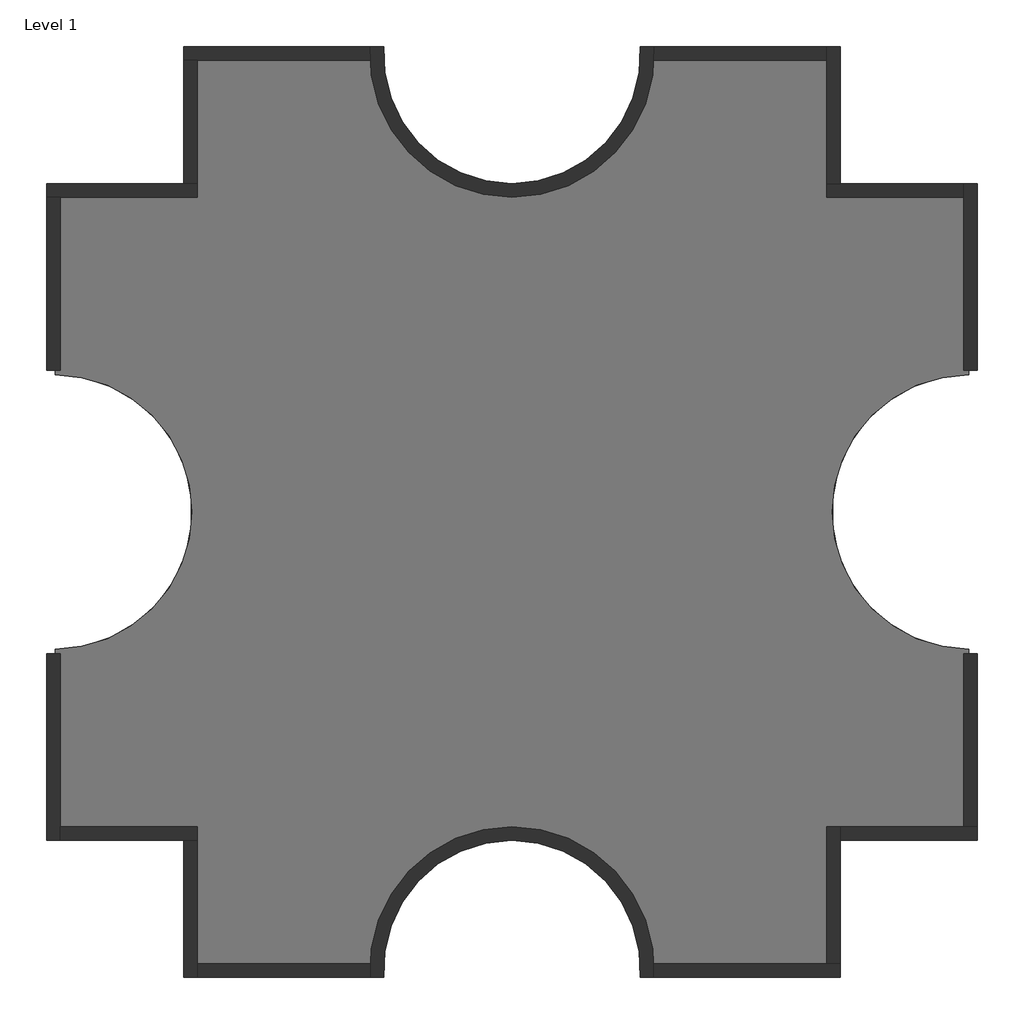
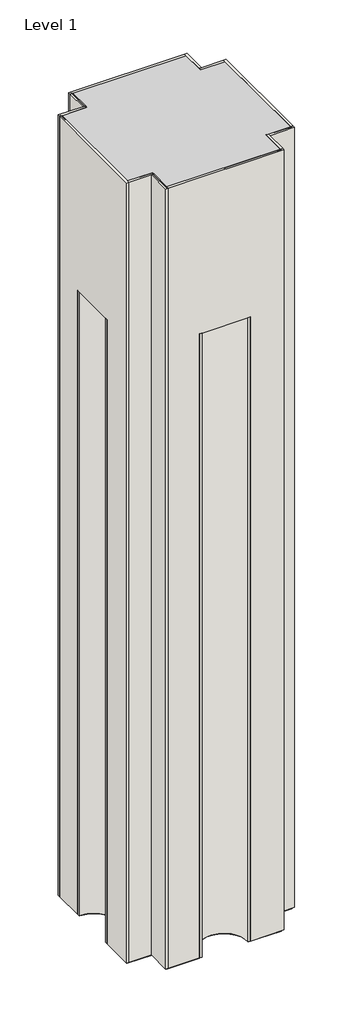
# One storey: 16 walls, 1 proxy, 1 slab.
"""IFC4 building model written with IfcOpenShell, lengths in millimetres."""

from ifc_helpers import new_model, si_unit, point, frame, frame_2d, origin, origin_with_axes, place, context, project, spatial, polyline, circle_curve, trimmed, segment, composite_curve, outline, extrude, faceted_brep, element, save
from ifc_brep_helpers import plane_surface, cylinder_surface, revolved_surface, advanced_brep

model = new_model("IFC4")

# Units and contexts
model_context = context("Model", 3, world=origin())
ifc_project = project(units=[si_unit("LENGTHUNIT", "METRE", prefix="MILLI")], contexts=[model_context])

# Site, building, storey
site = spatial("IfcSite", under=ifc_project)
building = spatial("IfcBuilding", under=site)
storey = spatial("IfcBuildingStorey", under=building, Name="Level 1", Elevation=0.0)

# Proxy
placement = place(None, origin())
element("IfcBuildingElementProxy", 1, Name="Mass 1 : Mass 1", ObjectType="Mass 1 : Mass 1", at=placement, inside=storey, context=model_context, shape_type="AdvancedBrep", body=[
    advanced_brep(
    [(-7150.3629456, 4479.6634547, 152400.0), (-11722.3629456, 4479.6634547, 152400.0), (-11722.3629456, -16856.3365453, 152400.0), (-7150.3629456, -16856.3365453, 152400.0), (-7150.3629456, -21428.3365453, 152400.0), (14185.6370544, -21428.3365453, 152400.0), (14185.6370544, -16856.3365453, 152400.0), (18757.6370544, -16856.3365453, 152400.0), (18757.6370544, 4479.6634547, 152400.0), (14185.6370544, 4479.6634547, 152400.0), (14185.6370544, 9051.6634547, 152400.0), (-7150.3629456, 9051.6634547, 152400.0), (-7150.3629456, 4479.6634547, 0.0), (-7150.3629456, 9051.6634547, 0.0), (-1054.3629456, 9051.6634547, 0.0), (8089.6370544, 9051.6634547, 0.0), (14185.6370544, 9051.6634547, 0.0), (14185.6370544, 4479.6634547, 0.0), (18757.6370544, 4479.6634547, 0.0), (18757.6370544, -1616.3365453, 0.0), (18757.6370544, -10760.3365453, 0.0), (18757.6370544, -16856.3365453, 0.0), (14185.6370544, -16856.3365453, 0.0), (14185.6370544, -21428.3365453, 0.0), (8089.6370544, -21428.3365453, 0.0), (-1054.3629456, -21428.3365453, 0.0), (-7150.3629456, -21428.3365453, 0.0), (-7150.3629456, -16856.3365453, 0.0), (-11722.3629456, -16856.3365453, 0.0), (-11722.3629456, -10760.3365453, 0.0), (-11722.3629456, -1616.3365453, 0.0), (-11722.3629456, 4479.6634547, 0.0), (-11722.3629456, -1616.3365453, 121920.0), (-11722.3629456, -10760.3365453, 121920.0), (-1054.3629456, -21428.3365453, 121920.0), (8089.6370544, -21428.3365453, 121920.0), (18757.6370544, -10760.3365453, 121920.0), (18757.6370544, -1616.3365453, 121920.0), (8089.6370544, 9051.6634547, 121920.0), (-1054.3629456, 9051.6634547, 121920.0)],
    [
        (0, 1),
        (1, 2),
        (2, 3),
        (3, 4),
        (4, 5),
        (5, 6),
        (6, 7),
        (7, 8),
        (8, 9),
        (9, 10),
        (10, 11),
        (11, 0),
        (12, 13),
        (13, 14),
        (14, 15, circle_curve(frame((3517.6370544, 9051.6634547, 0.0), z_axis=(0.0, 0.0, 1.0), x_axis=(0.0, 1.0, 0.0)), 4572.0)),
        (15, 16),
        (16, 17),
        (17, 18),
        (18, 19),
        (19, 20, circle_curve(frame((18757.6370544, -6188.3365453, 0.0), z_axis=(0.0, 0.0, 1.0), x_axis=(1.0, 0.0, 0.0)), 4572.0)),
        (20, 21),
        (21, 22),
        (22, 23),
        (23, 24),
        (24, 25, circle_curve(frame((3517.6370544, -21428.3365453, 0.0), z_axis=(0.0, 0.0, 1.0), x_axis=(0.0, -1.0, 0.0)), 4572.0)),
        (25, 26),
        (26, 27),
        (27, 28),
        (28, 29),
        (29, 30, circle_curve(frame((-11722.3629456, -6188.3365453, 0.0), z_axis=(0.0, 0.0, 1.0), x_axis=(-1.0, 0.0, 0.0)), 4572.0)),
        (30, 31),
        (31, 12),
        (0, 12),
        (31, 1),
        (30, 32),
        (32, 33),
        (33, 29),
        (28, 2),
        (27, 3),
        (26, 4),
        (25, 34),
        (34, 35),
        (35, 24),
        (23, 5),
        (22, 6),
        (21, 7),
        (20, 36),
        (36, 37),
        (37, 19),
        (18, 8),
        (17, 9),
        (16, 10),
        (15, 38),
        (38, 39),
        (39, 14),
        (13, 11),
        (36, 37, circle_curve(frame((18757.6370544, -6188.3365453, 121920.0), z_axis=(0.0, 0.0, -1.0), x_axis=(1.0, 0.0, 0.0)), 4572.0)),
        (34, 35, circle_curve(frame((3517.6370544, -21428.3365453, 121920.0), z_axis=(0.0, 0.0, -1.0), x_axis=(0.0, -1.0, 0.0)), 4572.0)),
        (38, 39, circle_curve(frame((3517.6370544, 9051.6634547, 121920.0), z_axis=(0.0, 0.0, -1.0), x_axis=(0.0, 1.0, 0.0)), 4572.0)),
        (32, 33, circle_curve(frame((-11722.3629456, -6188.3365453, 121920.0), z_axis=(0.0, 0.0, -1.0), x_axis=(-1.0, 0.0, 0.0)), 4572.0)),
    ],
    [
        plane_surface(frame((-11722.3629456, 4479.6634547, 152400.0), z_axis=(0.0, 0.0, 1.0), x_axis=(-1.0, 0.0, 0.0))),
        plane_surface(frame((-11722.3629456, 4479.6634547, 0.0), z_axis=(0.0, 0.0, -1.0), x_axis=(1.0, 0.0, 0.0))),
        plane_surface(frame((-7150.3629456, 4479.6634547, 152400.0), z_axis=(0.0, 1.0, 0.0), x_axis=(0.0, 0.0, -1.0))),
        plane_surface(frame((-11722.3629456, 4479.6634547, 152400.0), z_axis=(-1.0, 0.0, 0.0), x_axis=(0.0, 0.0, -1.0))),
        plane_surface(frame((-11722.3629456, -16856.3365453, 152400.0), z_axis=(0.0, -1.0, 0.0), x_axis=(0.0, 0.0, -1.0))),
        plane_surface(frame((-7150.3629456, -16856.3365453, 152400.0), z_axis=(-1.0, 0.0, 0.0), x_axis=(0.0, 0.0, -1.0))),
        plane_surface(frame((-7150.3629456, -21428.3365453, 152400.0), z_axis=(0.0, -1.0, 0.0), x_axis=(0.0, 0.0, -1.0))),
        plane_surface(frame((14185.6370544, -21428.3365453, 152400.0), z_axis=(1.0, 0.0, 0.0), x_axis=(0.0, 0.0, -1.0))),
        plane_surface(frame((14185.6370544, -16856.3365453, 152400.0), z_axis=(0.0, -1.0, 0.0), x_axis=(0.0, 0.0, -1.0))),
        plane_surface(frame((18757.6370544, -16856.3365453, 152400.0), z_axis=(1.0, 0.0, 0.0), x_axis=(0.0, 0.0, -1.0))),
        plane_surface(frame((18757.6370544, 4479.6634547, 152400.0), z_axis=(0.0, 1.0, 0.0), x_axis=(0.0, 0.0, -1.0))),
        plane_surface(frame((14185.6370544, 4479.6634547, 152400.0), z_axis=(1.0, 0.0, 0.0), x_axis=(0.0, 0.0, -1.0))),
        plane_surface(frame((14185.6370544, 9051.6634547, 152400.0), z_axis=(0.0, 1.0, 0.0), x_axis=(0.0, 0.0, -1.0))),
        plane_surface(frame((-7150.3629456, 9051.6634547, 152400.0), z_axis=(-1.0, 0.0, 0.0), x_axis=(0.0, 0.0, -1.0))),
        plane_surface(frame((18757.6370544, -10760.3365453, 121920.0), z_axis=(0.0, 0.0, -1.0), x_axis=(0.0, 1.0, 0.0))),
        revolved_surface(polyline([(23329.6370544, -6188.3365453, 121920.0), (23329.6370544, -6188.3365453, 0.0)]), (18757.6370544, -6188.3365453, 0.0), (0.0, 0.0, 1.0)),
        revolved_surface(polyline([(3517.6370544, -26000.3365453, 121920.0), (3517.6370544, -26000.3365453, 0.0)]), (3517.6370544, -21428.3365453, 0.0), (0.0, 0.0, 1.0)),
        revolved_surface(polyline([(3517.6370544, 13623.6634547, 121920.0), (3517.6370544, 13623.6634547, 0.0)]), (3517.6370544, 9051.6634547, 0.0), (0.0, 0.0, 1.0)),
        revolved_surface(polyline([(-16294.3629456, -6188.3365453, 121920.0), (-16294.3629456, -6188.3365453, 0.0)]), (-11722.3629456, -6188.3365453, 0.0), (0.0, 0.0, 1.0)),
    ],
    [
        (0, [[1, 2, 3, 4, 5, 6, 7, 8, 9, 10, 11, 12]]),
        (1, [[13, 14, 15, 16, 17, 18, 19, 20, 21, 22, 23, 24, 25, 26, 27, 28, 29, 30, 31, 32]]),
        (2, [[-1, 33, -32, 34]]),
        (3, [[-2, -34, -31, 35, 36, 37, -29, 38]]),
        (4, [[-3, -38, -28, 39]]),
        (5, [[-4, -39, -27, 40]]),
        (6, [[-5, -40, -26, 41, 42, 43, -24, 44]]),
        (7, [[-6, -44, -23, 45]]),
        (8, [[-7, -45, -22, 46]]),
        (9, [[-8, -46, -21, 47, 48, 49, -19, 50]]),
        (10, [[-9, -50, -18, 51]]),
        (11, [[-10, -51, -17, 52]]),
        (12, [[-11, -52, -16, 53, 54, 55, -14, 56]]),
        (13, [[-12, -56, -13, -33]]),
        (14, [[57, -48]]),
        (14, [[58, -42]]),
        (14, [[59, -54]]),
        (14, [[60, -36]]),
        (15, [[-57, -47, -20, -49]]),
        (16, [[-58, -41, -25, -43]]),
        (17, [[-59, -53, -15, -55]]),
        (18, [[-60, -35, -30, -37]]),
    ],
),
])

# Slab
element("IfcSlab", 2, ObjectType="Generic - 12\"", at=placement, inside=storey, context=model_context, shape_type="SweptSolid", body=[
    extrude(outline(composite_curve([segment(polyline([(-7150.3629456, 4479.6634547), (-7150.3629456, 9051.6634547), (-1054.3629456, 9051.6634547)]), True, "CONTINUOUS"), segment(trimmed(circle_curve(frame_2d((3517.6370544, 9051.6634547)), 4572.0), [point((-1054.3629456, 9051.6634547))], [point((8089.6370544, 9051.6634547))], True, "CARTESIAN"), True, "CONTINUOUS"), segment(polyline([(8089.6370544, 9051.6634547), (14185.6370544, 9051.6634547), (14185.6370544, 4479.6634547), (18757.6370544, 4479.6634547), (18757.6370544, -1616.3365453)]), True, "CONTINUOUS"), segment(trimmed(circle_curve(frame_2d((18757.6370544, -6188.3365453)), 4572.0), [point((18757.6370544, -1616.3365453))], [point((18757.6370544, -10760.3365453))], True, "CARTESIAN"), True, "CONTINUOUS"), segment(polyline([(18757.6370544, -10760.3365453), (18757.6370544, -16856.3365453), (14185.6370544, -16856.3365453), (14185.6370544, -21428.3365453), (8089.6370544, -21428.3365453)]), True, "CONTINUOUS"), segment(trimmed(circle_curve(frame_2d((3517.6370544, -21428.3365453)), 4572.0), [point((8089.6370544, -21428.3365453))], [point((-1054.3629456, -21428.3365453))], True, "CARTESIAN"), True, "CONTINUOUS"), segment(polyline([(-1054.3629456, -21428.3365453), (-7150.3629456, -21428.3365453), (-7150.3629456, -16856.3365453), (-11722.3629456, -16856.3365453), (-11722.3629456, -10760.3365453)]), True, "CONTINUOUS"), segment(trimmed(circle_curve(frame_2d((-11722.3629456, -6188.3365453)), 4572.0), [point((-11722.3629456, -10760.3365453))], [point((-11722.3629456, -1616.3365453))], True, "CARTESIAN"), True, "CONTINUOUS"), segment(polyline([(-11722.3629456, -1616.3365453), (-11722.3629456, 4479.6634547), (-7150.3629456, 4479.6634547)]), True, "CONTINUOUS")], self_intersect=False)), frame((0.0, 0.0, -304.8), z_axis=(0.0, 0.0, 1.0), x_axis=(1.0, 0.0, 0.0)), (0.0, 0.0, 1.0), 304.8),
])

# Walls
element("IfcWall", 3, ObjectType="Exterior - CMU on Mtl. Stud", at=placement, inside=storey, context=model_context, shape_type="Brep", body=[
    faceted_brep([(-6985.2629456, 4768.5884547, 0.0), (-7439.2879456, 4768.5884547, 0.0), (-12011.2879456, 4768.5884547, 0.0), (-12011.2879456, 4768.5884547, 152400.0), (-7439.2879456, 4768.5884547, 152400.0), (-6985.2629456, 4768.5884547, 152400.0), (-6985.2629456, 4314.5634547, 0.0), (-6985.2629456, 4314.5634547, 152400.0), (-11557.2629456, 4314.5634547, 152400.0), (-12011.2879456, 4314.5634547, 152400.0), (-12011.2879456, 4314.5634547, 0.0), (-11557.2629456, 4314.5634547, 0.0)], [[[0, 1, 2, 3, 4, 5]], [[6, 7, 8, 9, 10, 11]], [[2, 1, 0, 6, 11, 10]], [[5, 4, 3, 9, 8, 7]], [[3, 2, 10, 9]], [[0, 5, 7, 6]]]),
])
element("IfcWall", 4, ObjectType="Exterior - CMU on Mtl. Stud", at=placement, inside=storey, context=model_context, shape_type="AdvancedBrep", body=[
    advanced_brep(
    [(-12011.2879456, 4314.5634547, 152400.0), (-12011.2879456, 4314.5634547, 0.0), (-12011.2879456, -1460.0558055, 0.0), (-12011.2879456, -1460.0558055, 121920.0), (-12011.2879456, -1915.0177179, 121920.0), (-12011.2879456, -10461.6553726, 121920.0), (-12011.2879456, -10916.6172851, 121920.0), (-12011.2879456, -10916.6172851, 0.0), (-12011.2879456, -17145.2615453, 0.0), (-12011.2879456, -17145.2615453, 152400.0), (-11557.2629456, 4314.5634547, 152400.0), (-11557.2629456, -16691.2365453, 152400.0), (-11557.2629456, -17145.2615453, 152400.0), (-11557.2629456, -17145.2615453, 0.0), (-11557.2629456, -16691.2365453, 0.0), (-11557.2629456, -10922.5585933, 0.0), (-11557.2629456, -10922.5585933, 121920.0), (-11557.2629456, -1454.1144972, 121920.0), (-11557.2629456, -1454.1144972, 0.0), (-11557.2629456, 4314.5634547, 0.0)],
    [
        (0, 1),
        (1, 2),
        (2, 3),
        (3, 4),
        (4, 5),
        (5, 6),
        (6, 7),
        (7, 8),
        (8, 9),
        (9, 0),
        (10, 11),
        (11, 12),
        (12, 13),
        (13, 14),
        (14, 15),
        (15, 16),
        (16, 17),
        (17, 18),
        (18, 19),
        (19, 10),
        (1, 19),
        (18, 2, circle_curve(frame((-11722.3629456, -6188.3365453, 0.0), z_axis=(0.0, 0.0, 1.0), x_axis=(-1.0, 0.0, 0.0)), 4737.1)),
        (3, 17, circle_curve(frame((-11722.3629456, -6188.3365453, 121920.0), z_axis=(0.0, 0.0, -1.0), x_axis=(-1.0, 0.0, 0.0)), 4737.1)),
        (16, 6, circle_curve(frame((-11722.3629456, -6188.3365453, 121920.0), z_axis=(0.0, 0.0, -1.0), x_axis=(-1.0, 0.0, 0.0)), 4737.1)),
        (7, 15, circle_curve(frame((-11722.3629456, -6188.3365453, 0.0), z_axis=(0.0, 0.0, 1.0), x_axis=(-1.0, 0.0, 0.0)), 4737.1)),
        (13, 8),
        (9, 12),
        (10, 0),
    ],
    [
        plane_surface(frame((-12011.2879456, 4541.5759547, 152400.0), z_axis=(-1.0, 0.0, 0.0), x_axis=(0.0, 0.0, -1.0))),
        plane_surface(frame((-11557.2629456, 4541.5759547, 152400.0), z_axis=(1.0, 0.0, 0.0), x_axis=(0.0, 0.0, 1.0))),
        plane_surface(frame((-12011.2879456, 4541.5759547, 0.0), z_axis=(0.0, 0.0, -1.0), x_axis=(1.0, 0.0, 0.0))),
        plane_surface(frame((-12011.2879456, -1678.6740191, 121920.0), z_axis=(0.0, 0.0, -1.0), x_axis=(1.0, 0.0, 0.0))),
        plane_surface(frame((-12011.2879456, -10697.9990714, 0.0), z_axis=(0.0, 0.0, -1.0), x_axis=(1.0, 0.0, 0.0))),
        plane_surface(frame((-12011.2879456, -16918.2490453, 152400.0), z_axis=(0.0, 0.0, 1.0), x_axis=(1.0, 0.0, 0.0))),
        plane_surface(frame((-11722.3629456, -17145.2615453, 0.0), z_axis=(0.0, -1.0, 0.0), x_axis=(1.0, 0.0, 0.0))),
        plane_surface(frame((-7150.3629456, 4314.5634547, 0.0), z_axis=(0.0, 1.0, 0.0), x_axis=(1.0, 0.0, 0.0))),
        revolved_surface(polyline([(-16459.4629456, -6188.3365453, 121920.0), (-16459.4629456, -6188.3365453, 0.0)]), (-11722.3629456, -6188.3365453, 0.0), (0.0, 0.0, 1.0)),
    ],
    [
        (0, [[1, 2, 3, 4, 5, 6, 7, 8, 9, 10]]),
        (1, [[11, 12, 13, 14, 15, 16, 17, 18, 19, 20]]),
        (2, [[-2, 21, -19, 22]]),
        (3, [[-6, -5, -4, 23, -17, 24]]),
        (4, [[-8, 25, -15, -14, 26]]),
        (5, [[-10, 27, -12, -11, 28]]),
        (6, [[-9, -26, -13, -27]]),
        (7, [[-1, -28, -20, -21]]),
        (8, [[-3, -22, -18, -23]]),
        (8, [[-7, -24, -16, -25]]),
    ],
),
])
element("IfcWall", 5, ObjectType="Exterior - CMU on Mtl. Stud", at=placement, inside=storey, context=model_context, shape_type="Brep", body=[
    faceted_brep([(-11557.2629456, -17145.2615453, 0.0), (-7439.2879456, -17145.2615453, 0.0), (-6985.2629456, -17145.2615453, 0.0), (-6985.2629456, -17145.2615453, 152400.0), (-7439.2879456, -17145.2615453, 152400.0), (-11557.2629456, -17145.2615453, 152400.0), (-11557.2629456, -16691.2365453, 0.0), (-11557.2629456, -16691.2365453, 152400.0), (-6985.2629456, -16691.2365453, 152400.0), (-6985.2629456, -16691.2365453, 0.0)], [[[0, 1, 2, 3, 4, 5]], [[6, 7, 8, 9]], [[2, 1, 0, 6, 9]], [[5, 4, 3, 8, 7]], [[3, 2, 9, 8]], [[0, 5, 7, 6]]]),
])
element("IfcWall", 6, ObjectType="Exterior - CMU on Mtl. Stud", at=placement, inside=storey, context=model_context, shape_type="Brep", body=[
    faceted_brep([(-7439.2879456, -17145.2615453, 0.0), (-7439.2879456, -21717.2615453, 0.0), (-7439.2879456, -21717.2615453, 152400.0), (-7439.2879456, -17145.2615453, 152400.0), (-6985.2629456, -17145.2615453, 0.0), (-6985.2629456, -17145.2615453, 152400.0), (-6985.2629456, -21263.2365453, 152400.0), (-6985.2629456, -21717.2615453, 152400.0), (-6985.2629456, -21717.2615453, 0.0), (-6985.2629456, -21263.2365453, 0.0)], [[[0, 1, 2, 3]], [[4, 5, 6, 7, 8, 9]], [[1, 0, 4, 9, 8]], [[3, 2, 7, 6, 5]], [[2, 1, 8, 7]], [[0, 3, 5, 4]]]),
])
element("IfcWall", 7, ObjectType="Exterior - CMU on Mtl. Stud", at=placement, inside=storey, context=model_context, shape_type="AdvancedBrep", body=[
    advanced_brep(
    [(-6985.2629456, -21717.2615453, 152400.0), (-6985.2629456, -21717.2615453, 0.0), (-1210.6436854, -21717.2615453, 0.0), (-1210.6436854, -21717.2615453, 121920.0), (-755.681773, -21717.2615453, 121920.0), (7790.9558817, -21717.2615453, 121920.0), (8245.9177942, -21717.2615453, 121920.0), (8245.9177942, -21717.2615453, 0.0), (14474.5620544, -21717.2615453, 0.0), (14474.5620544, -21717.2615453, 152400.0), (-6985.2629456, -21263.2365453, 152400.0), (14020.5370544, -21263.2365453, 152400.0), (14474.5620544, -21263.2365453, 152400.0), (14474.5620544, -21263.2365453, 0.0), (14020.5370544, -21263.2365453, 0.0), (8251.8591024, -21263.2365453, 0.0), (8251.8591024, -21263.2365453, 121920.0), (-1216.5849937, -21263.2365453, 121920.0), (-1216.5849937, -21263.2365453, 0.0), (-6985.2629456, -21263.2365453, 0.0)],
    [
        (0, 1),
        (1, 2),
        (2, 3),
        (3, 4),
        (4, 5),
        (5, 6),
        (6, 7),
        (7, 8),
        (8, 9),
        (9, 0),
        (10, 11),
        (11, 12),
        (12, 13),
        (13, 14),
        (14, 15),
        (15, 16),
        (16, 17),
        (17, 18),
        (18, 19),
        (19, 10),
        (1, 19),
        (18, 2, circle_curve(frame((3517.6370544, -21428.3365453, 0.0), z_axis=(0.0, 0.0, 1.0), x_axis=(0.0, -1.0, 0.0)), 4737.1)),
        (3, 17, circle_curve(frame((3517.6370544, -21428.3365453, 121920.0), z_axis=(0.0, 0.0, -1.0), x_axis=(0.0, -1.0, 0.0)), 4737.1)),
        (16, 6, circle_curve(frame((3517.6370544, -21428.3365453, 121920.0), z_axis=(0.0, 0.0, -1.0), x_axis=(0.0, -1.0, 0.0)), 4737.1)),
        (7, 15, circle_curve(frame((3517.6370544, -21428.3365453, 0.0), z_axis=(0.0, 0.0, 1.0), x_axis=(0.0, -1.0, 0.0)), 4737.1)),
        (13, 8),
        (9, 12),
        (10, 0),
    ],
    [
        plane_surface(frame((-7212.2754456, -21717.2615453, 152400.0), z_axis=(0.0, -1.0, 0.0), x_axis=(0.0, 0.0, -1.0))),
        plane_surface(frame((-7212.2754456, -21263.2365453, 152400.0), z_axis=(0.0, 1.0, 0.0), x_axis=(0.0, 0.0, 1.0))),
        plane_surface(frame((-7212.2754456, -21717.2615453, 0.0), z_axis=(0.0, 0.0, -1.0), x_axis=(0.0, 1.0, 0.0))),
        plane_surface(frame((-992.0254718, -21717.2615453, 121920.0), z_axis=(0.0, 0.0, -1.0), x_axis=(0.0, 1.0, 0.0))),
        plane_surface(frame((8027.2995805, -21717.2615453, 0.0), z_axis=(0.0, 0.0, -1.0), x_axis=(0.0, 1.0, 0.0))),
        plane_surface(frame((14247.5495544, -21717.2615453, 152400.0), z_axis=(0.0, 0.0, 1.0), x_axis=(0.0, 1.0, 0.0))),
        plane_surface(frame((14474.5620544, -21428.3365453, 0.0), z_axis=(1.0, 0.0, 0.0), x_axis=(0.0, 1.0, 0.0))),
        plane_surface(frame((-6985.2629456, -16856.3365453, 0.0), z_axis=(-1.0, 0.0, 0.0), x_axis=(0.0, 1.0, 0.0))),
        revolved_surface(polyline([(3517.6370544, -26165.4365453, 121920.0), (3517.6370544, -26165.4365453, 0.0)]), (3517.6370544, -21428.3365453, 0.0), (0.0, 0.0, 1.0)),
    ],
    [
        (0, [[1, 2, 3, 4, 5, 6, 7, 8, 9, 10]]),
        (1, [[11, 12, 13, 14, 15, 16, 17, 18, 19, 20]]),
        (2, [[-2, 21, -19, 22]]),
        (3, [[-6, -5, -4, 23, -17, 24]]),
        (4, [[-8, 25, -15, -14, 26]]),
        (5, [[-10, 27, -12, -11, 28]]),
        (6, [[-9, -26, -13, -27]]),
        (7, [[-1, -28, -20, -21]]),
        (8, [[-3, -22, -18, -23]]),
        (8, [[-7, -24, -16, -25]]),
    ],
),
])
element("IfcWall", 8, ObjectType="Exterior - CMU on Mtl. Stud", at=placement, inside=storey, context=model_context, shape_type="Brep", body=[
    faceted_brep([(14474.5620544, -21263.2365453, 0.0), (14474.5620544, -17145.2615453, 0.0), (14474.5620544, -16691.2365453, 0.0), (14474.5620544, -16691.2365453, 152400.0), (14474.5620544, -17145.2615453, 152400.0), (14474.5620544, -21263.2365453, 152400.0), (14020.5370544, -21263.2365453, 0.0), (14020.5370544, -21263.2365453, 152400.0), (14020.5370544, -16691.2365453, 152400.0), (14020.5370544, -16691.2365453, 0.0)], [[[0, 1, 2, 3, 4, 5]], [[6, 7, 8, 9]], [[2, 1, 0, 6, 9]], [[5, 4, 3, 8, 7]], [[3, 2, 9, 8]], [[0, 5, 7, 6]]]),
])
element("IfcWall", 9, ObjectType="Exterior - CMU on Mtl. Stud", at=placement, inside=storey, context=model_context, shape_type="Brep", body=[
    faceted_brep([(14474.5620544, -17145.2615453, 0.0), (19046.5620544, -17145.2615453, 0.0), (19046.5620544, -17145.2615453, 152400.0), (14474.5620544, -17145.2615453, 152400.0), (14474.5620544, -16691.2365453, 0.0), (14474.5620544, -16691.2365453, 152400.0), (18592.5370544, -16691.2365453, 152400.0), (19046.5620544, -16691.2365453, 152400.0), (19046.5620544, -16691.2365453, 0.0), (18592.5370544, -16691.2365453, 0.0)], [[[0, 1, 2, 3]], [[4, 5, 6, 7, 8, 9]], [[1, 0, 4, 9, 8]], [[3, 2, 7, 6, 5]], [[2, 1, 8, 7]], [[0, 3, 5, 4]]]),
])
element("IfcWall", 10, ObjectType="Exterior - CMU on Mtl. Stud", at=placement, inside=storey, context=model_context, shape_type="AdvancedBrep", body=[
    advanced_brep(
    [(19046.5620544, -16691.2365453, 152400.0), (19046.5620544, -16691.2365453, 0.0), (19046.5620544, -10916.6172851, 0.0), (19046.5620544, -10916.6172851, 121920.0), (19046.5620544, -10461.6553726, 121920.0), (19046.5620544, -1915.0177179, 121920.0), (19046.5620544, -1460.0558055, 121920.0), (19046.5620544, -1460.0558055, 0.0), (19046.5620544, 4768.5884547, 0.0), (19046.5620544, 4768.5884547, 152400.0), (18592.5370544, -16691.2365453, 152400.0), (18592.5370544, 4314.5634547, 152400.0), (18592.5370544, 4768.5884547, 152400.0), (18592.5370544, 4768.5884547, 0.0), (18592.5370544, 4314.5634547, 0.0), (18592.5370544, -1454.1144972, 0.0), (18592.5370544, -1454.1144972, 121920.0), (18592.5370544, -10922.5585933, 121920.0), (18592.5370544, -10922.5585933, 0.0), (18592.5370544, -16691.2365453, 0.0)],
    [
        (0, 1),
        (1, 2),
        (2, 3),
        (3, 4),
        (4, 5),
        (5, 6),
        (6, 7),
        (7, 8),
        (8, 9),
        (9, 0),
        (10, 11),
        (11, 12),
        (12, 13),
        (13, 14),
        (14, 15),
        (15, 16),
        (16, 17),
        (17, 18),
        (18, 19),
        (19, 10),
        (1, 19),
        (18, 2, circle_curve(frame((18757.6370544, -6188.3365453, 0.0), z_axis=(0.0, 0.0, 1.0), x_axis=(1.0, 0.0, 0.0)), 4737.1)),
        (3, 17, circle_curve(frame((18757.6370544, -6188.3365453, 121920.0), z_axis=(0.0, 0.0, -1.0), x_axis=(1.0, 0.0, 0.0)), 4737.1)),
        (16, 6, circle_curve(frame((18757.6370544, -6188.3365453, 121920.0), z_axis=(0.0, 0.0, -1.0), x_axis=(1.0, 0.0, 0.0)), 4737.1)),
        (7, 15, circle_curve(frame((18757.6370544, -6188.3365453, 0.0), z_axis=(0.0, 0.0, 1.0), x_axis=(1.0, 0.0, 0.0)), 4737.1)),
        (13, 8),
        (9, 12),
        (10, 0),
    ],
    [
        plane_surface(frame((19046.5620544, -16918.2490453, 152400.0), z_axis=(1.0, 0.0, 0.0), x_axis=(0.0, 0.0, -1.0))),
        plane_surface(frame((18592.5370544, -16918.2490453, 152400.0), z_axis=(-1.0, 0.0, 0.0), x_axis=(0.0, 0.0, 1.0))),
        plane_surface(frame((19046.5620544, -16918.2490453, 0.0), z_axis=(0.0, 0.0, -1.0), x_axis=(-1.0, 0.0, 0.0))),
        plane_surface(frame((19046.5620544, -10697.9990714, 121920.0), z_axis=(0.0, 0.0, -1.0), x_axis=(-1.0, 0.0, 0.0))),
        plane_surface(frame((19046.5620544, -1678.6740191, 0.0), z_axis=(0.0, 0.0, -1.0), x_axis=(-1.0, 0.0, 0.0))),
        plane_surface(frame((19046.5620544, 4541.5759547, 152400.0), z_axis=(0.0, 0.0, 1.0), x_axis=(-1.0, 0.0, 0.0))),
        plane_surface(frame((18757.6370544, 4768.5884547, 0.0), z_axis=(0.0, 1.0, 0.0), x_axis=(-1.0, 0.0, 0.0))),
        plane_surface(frame((14185.6370544, -16691.2365453, 0.0), z_axis=(0.0, -1.0, 0.0), x_axis=(-1.0, 0.0, 0.0))),
        revolved_surface(polyline([(23494.7370544, -6188.3365453, 121920.0), (23494.7370544, -6188.3365453, 0.0)]), (18757.6370544, -6188.3365453, 0.0), (0.0, 0.0, 1.0)),
    ],
    [
        (0, [[1, 2, 3, 4, 5, 6, 7, 8, 9, 10]]),
        (1, [[11, 12, 13, 14, 15, 16, 17, 18, 19, 20]]),
        (2, [[-2, 21, -19, 22]]),
        (3, [[-6, -5, -4, 23, -17, 24]]),
        (4, [[-8, 25, -15, -14, 26]]),
        (5, [[-10, 27, -12, -11, 28]]),
        (6, [[-9, -26, -13, -27]]),
        (7, [[-1, -28, -20, -21]]),
        (8, [[-3, -22, -18, -23]]),
        (8, [[-7, -24, -16, -25]]),
    ],
),
])
element("IfcWall", 11, ObjectType="Exterior - CMU on Mtl. Stud", at=placement, inside=storey, context=model_context, shape_type="Brep", body=[
    faceted_brep([(18592.5370544, 4768.5884547, 0.0), (14474.5620544, 4768.5884547, 0.0), (14020.5370544, 4768.5884547, 0.0), (14020.5370544, 4768.5884547, 152400.0), (14474.5620544, 4768.5884547, 152400.0), (18592.5370544, 4768.5884547, 152400.0), (18592.5370544, 4314.5634547, 0.0), (18592.5370544, 4314.5634547, 152400.0), (14020.5370544, 4314.5634547, 152400.0), (14020.5370544, 4314.5634547, 0.0)], [[[0, 1, 2, 3, 4, 5]], [[6, 7, 8, 9]], [[2, 1, 0, 6, 9]], [[5, 4, 3, 8, 7]], [[3, 2, 9, 8]], [[0, 5, 7, 6]]]),
])
element("IfcWall", 12, ObjectType="Exterior - CMU on Mtl. Stud", at=placement, inside=storey, context=model_context, shape_type="Brep", body=[
    faceted_brep([(14474.5620544, 4768.5884547, 0.0), (14474.5620544, 9340.5884547, 0.0), (14474.5620544, 9340.5884547, 152400.0), (14474.5620544, 4768.5884547, 152400.0), (14020.5370544, 4768.5884547, 0.0), (14020.5370544, 4768.5884547, 152400.0), (14020.5370544, 8886.5634547, 152400.0), (14020.5370544, 9340.5884547, 152400.0), (14020.5370544, 9340.5884547, 0.0), (14020.5370544, 8886.5634547, 0.0)], [[[0, 1, 2, 3]], [[4, 5, 6, 7, 8, 9]], [[1, 0, 4, 9, 8]], [[3, 2, 7, 6, 5]], [[2, 1, 8, 7]], [[0, 3, 5, 4]]]),
])
element("IfcWall", 13, ObjectType="Exterior - CMU on Mtl. Stud", at=placement, inside=storey, context=model_context, shape_type="AdvancedBrep", body=[
    advanced_brep(
    [(14020.5370544, 9340.5884547, 152400.0), (14020.5370544, 9340.5884547, 0.0), (8245.9177942, 9340.5884547, 0.0), (8245.9177942, 9340.5884547, 121920.0), (7790.9558817, 9340.5884547, 121920.0), (-755.681773, 9340.5884547, 121920.0), (-1210.6436854, 9340.5884547, 121920.0), (-1210.6436854, 9340.5884547, 0.0), (-7439.2879456, 9340.5884547, 0.0), (-7439.2879456, 9340.5884547, 152400.0), (14020.5370544, 8886.5634547, 152400.0), (-6985.2629456, 8886.5634547, 152400.0), (-7439.2879456, 8886.5634547, 152400.0), (-7439.2879456, 8886.5634547, 0.0), (-6985.2629456, 8886.5634547, 0.0), (-1216.5849937, 8886.5634547, 0.0), (-1216.5849937, 8886.5634547, 121920.0), (8251.8591024, 8886.5634547, 121920.0), (8251.8591024, 8886.5634547, 0.0), (14020.5370544, 8886.5634547, 0.0)],
    [
        (0, 1),
        (1, 2),
        (2, 3),
        (3, 4),
        (4, 5),
        (5, 6),
        (6, 7),
        (7, 8),
        (8, 9),
        (9, 0),
        (10, 11),
        (11, 12),
        (12, 13),
        (13, 14),
        (14, 15),
        (15, 16),
        (16, 17),
        (17, 18),
        (18, 19),
        (19, 10),
        (1, 19),
        (18, 2, circle_curve(frame((3517.6370544, 9051.6634547, 0.0), z_axis=(0.0, 0.0, 1.0), x_axis=(0.0, 1.0, 0.0)), 4737.1)),
        (3, 17, circle_curve(frame((3517.6370544, 9051.6634547, 121920.0), z_axis=(0.0, 0.0, -1.0), x_axis=(0.0, 1.0, 0.0)), 4737.1)),
        (16, 6, circle_curve(frame((3517.6370544, 9051.6634547, 121920.0), z_axis=(0.0, 0.0, -1.0), x_axis=(0.0, 1.0, 0.0)), 4737.1)),
        (7, 15, circle_curve(frame((3517.6370544, 9051.6634547, 0.0), z_axis=(0.0, 0.0, 1.0), x_axis=(0.0, 1.0, 0.0)), 4737.1)),
        (13, 8),
        (9, 12),
        (10, 0),
    ],
    [
        plane_surface(frame((14247.5495544, 9340.5884547, 152400.0), z_axis=(0.0, 1.0, 0.0), x_axis=(0.0, 0.0, -1.0))),
        plane_surface(frame((14247.5495544, 8886.5634547, 152400.0), z_axis=(0.0, -1.0, 0.0), x_axis=(0.0, 0.0, 1.0))),
        plane_surface(frame((14247.5495544, 9340.5884547, 0.0), z_axis=(0.0, 0.0, -1.0), x_axis=(0.0, -1.0, 0.0))),
        plane_surface(frame((8027.2995805, 9340.5884547, 121920.0), z_axis=(0.0, 0.0, -1.0), x_axis=(0.0, -1.0, 0.0))),
        plane_surface(frame((-992.0254718, 9340.5884547, 0.0), z_axis=(0.0, 0.0, -1.0), x_axis=(0.0, -1.0, 0.0))),
        plane_surface(frame((-7212.2754456, 9340.5884547, 152400.0), z_axis=(0.0, 0.0, 1.0), x_axis=(0.0, -1.0, 0.0))),
        plane_surface(frame((-7439.2879456, 9051.6634547, 0.0), z_axis=(-1.0, 0.0, 0.0), x_axis=(0.0, -1.0, 0.0))),
        plane_surface(frame((14020.5370544, 4479.6634547, 0.0), z_axis=(1.0, 0.0, 0.0), x_axis=(0.0, -1.0, 0.0))),
        revolved_surface(polyline([(3517.6370544, 13788.7634547, 121920.0), (3517.6370544, 13788.7634547, 0.0)]), (3517.6370544, 9051.6634547, 0.0), (0.0, 0.0, 1.0)),
    ],
    [
        (0, [[1, 2, 3, 4, 5, 6, 7, 8, 9, 10]]),
        (1, [[11, 12, 13, 14, 15, 16, 17, 18, 19, 20]]),
        (2, [[-2, 21, -19, 22]]),
        (3, [[-6, -5, -4, 23, -17, 24]]),
        (4, [[-8, 25, -15, -14, 26]]),
        (5, [[-10, 27, -12, -11, 28]]),
        (6, [[-9, -26, -13, -27]]),
        (7, [[-1, -28, -20, -21]]),
        (8, [[-3, -22, -18, -23]]),
        (8, [[-7, -24, -16, -25]]),
    ],
),
])
element("IfcWall", 14, ObjectType="Exterior - CMU on Mtl. Stud", at=placement, inside=storey, context=model_context, shape_type="SweptSolid", body=[
    extrude(outline(polyline([(-7439.2879456, 4768.5884547), (-7439.2879456, 8886.5634547), (-6985.2629456, 8886.5634547), (-6985.2629456, 4768.5884547), (-7439.2879456, 4768.5884547)])), origin_with_axes(), (0.0, 0.0, 1.0), 152400.0),
])
element("IfcWall", 15, ObjectType="Exterior - CMU on Mtl. Stud", at=placement, inside=storey, context=model_context, shape_type="AdvancedBrep", body=[
    advanced_brep(
    [(19046.5620544, -10461.6553726, 121920.0), (19046.5620544, -1915.0177179, 121920.0), (19046.5620544, -1460.0558055, 121920.0), (18592.5272967, -1454.1150433, 121920.0), (18592.5271824, -10922.5581076, 121920.0), (19046.5620544, -10916.6172851, 121920.0), (19046.5620544, -10461.6553726, 0.0), (19046.5620544, -10916.6172851, 0.0), (18592.5271824, -10922.5581076, 0.0), (18592.5272967, -1454.1150433, 0.0), (19046.5620544, -1460.0558055, 0.0), (19046.5620544, -1915.0177179, 0.0)],
    [
        (0, 1, circle_curve(frame((18757.6370544, -6188.3365453, 121920.0), z_axis=(0.0, 0.0, -1.0), x_axis=(1.0, 0.0, 0.0)), 4283.075)),
        (1, 2),
        (2, 3, circle_curve(frame((18757.6370544, -6188.3365453, 121920.0), z_axis=(0.0, 0.0, 1.0), x_axis=(1.0, 0.0, 0.0)), 4737.1)),
        (3, 4, circle_curve(frame((18757.6370544, -6188.3365453, 121920.0), z_axis=(0.0, 0.0, 1.0), x_axis=(1.0, 0.0, 0.0)), 4737.0997944)),
        (4, 5, circle_curve(frame((18757.6370544, -6188.3365453, 121920.0), z_axis=(0.0, 0.0, 1.0), x_axis=(1.0, 0.0, 0.0)), 4737.0998587)),
        (5, 0),
        (6, 7),
        (7, 8, circle_curve(frame((18757.6370544, -6188.3365453, 0.0), z_axis=(0.0, 0.0, -1.0), x_axis=(1.0, 0.0, 0.0)), 4737.1)),
        (8, 9, circle_curve(frame((18757.6370544, -6188.3365453, 0.0), z_axis=(0.0, 0.0, -1.0), x_axis=(1.0, 0.0, 0.0)), 4737.0998587)),
        (9, 10, circle_curve(frame((18757.6370544, -6188.3365453, 0.0), z_axis=(0.0, 0.0, -1.0), x_axis=(1.0, 0.0, 0.0)), 4737.0997944)),
        (10, 11),
        (11, 6, circle_curve(frame((18757.6370544, -6188.3365453, 0.0), z_axis=(0.0, 0.0, 1.0), x_axis=(1.0, 0.0, 0.0)), 4283.075)),
        (0, 6),
        (11, 1),
        (2, 10),
        (7, 5),
    ],
    [
        plane_surface(frame((23040.7120544, -6188.3365453, 121920.0), z_axis=(0.0, 0.0, 1.0), x_axis=(0.0, -1.0, 0.0))),
        plane_surface(frame((23040.7120544, -6188.3365453, 0.0), z_axis=(0.0, 0.0, -1.0), x_axis=(0.0, 1.0, 0.0))),
        revolved_surface(polyline([(23040.7120544, -6188.3365453, 0.0), (23040.7120544, -6188.3365453, 121920.0)]), (18757.6370544, -6188.3365453, 0.0), (0.0, 0.0, -1.0)),
        cylinder_surface(frame((18757.6370544, -6188.3365453, 0.0), z_axis=(0.0, 0.0, 1.0), x_axis=(1.0, 0.0, 0.0)), 4737.1),
        plane_surface(frame((19046.5620544, -16918.2490453, 152400.0), z_axis=(1.0, 0.0, 0.0), x_axis=(0.0, 0.0, -1.0))),
    ],
    [
        (0, [[1, 2, 3, 4, 5, 6]]),
        (1, [[7, 8, 9, 10, 11, 12]]),
        (2, [[-1, 13, -12, 14]]),
        (3, [[-5, -4, -3, 15, -10, -9, -8, 16]]),
        (4, [[-6, -16, -7, -13]]),
        (4, [[-2, -14, -11, -15]]),
    ],
),
])
element("IfcWall", 16, ObjectType="Exterior - CMU on Mtl. Stud", at=placement, inside=storey, context=model_context, shape_type="AdvancedBrep", body=[
    advanced_brep(
    [(-755.681773, -21717.2615453, 121920.0), (7790.9558817, -21717.2615453, 121920.0), (8245.9177942, -21717.2615453, 121920.0), (8251.8585564, -21263.2267876, 121920.0), (-1216.584508, -21263.2266733, 121920.0), (-1210.6436854, -21717.2615453, 121920.0), (-755.681773, -21717.2615453, 0.0), (-1210.6436854, -21717.2615453, 0.0), (-1216.584508, -21263.2266733, 0.0), (8251.8585564, -21263.2267876, 0.0), (8245.9177942, -21717.2615453, 0.0), (7790.9558817, -21717.2615453, 0.0)],
    [
        (0, 1, circle_curve(frame((3517.6370544, -21428.3365453, 121920.0), z_axis=(0.0, 0.0, -1.0), x_axis=(0.0, -1.0, 0.0)), 4283.075)),
        (1, 2),
        (2, 3, circle_curve(frame((3517.6370544, -21428.3365453, 121920.0), z_axis=(0.0, 0.0, 1.0), x_axis=(0.0, -1.0, 0.0)), 4737.1)),
        (3, 4, circle_curve(frame((3517.6370544, -21428.3365453, 121920.0), z_axis=(0.0, 0.0, 1.0), x_axis=(0.0, -1.0, 0.0)), 4737.0997944)),
        (4, 5, circle_curve(frame((3517.6370544, -21428.3365453, 121920.0), z_axis=(0.0, 0.0, 1.0), x_axis=(0.0, -1.0, 0.0)), 4737.0998587)),
        (5, 0),
        (6, 7),
        (7, 8, circle_curve(frame((3517.6370544, -21428.3365453, 0.0), z_axis=(0.0, 0.0, -1.0), x_axis=(0.0, -1.0, 0.0)), 4737.1)),
        (8, 9, circle_curve(frame((3517.6370544, -21428.3365453, 0.0), z_axis=(0.0, 0.0, -1.0), x_axis=(0.0, -1.0, 0.0)), 4737.0998587)),
        (9, 10, circle_curve(frame((3517.6370544, -21428.3365453, 0.0), z_axis=(0.0, 0.0, -1.0), x_axis=(0.0, -1.0, 0.0)), 4737.0997944)),
        (10, 11),
        (11, 6, circle_curve(frame((3517.6370544, -21428.3365453, 0.0), z_axis=(0.0, 0.0, 1.0), x_axis=(0.0, -1.0, 0.0)), 4283.075)),
        (0, 6),
        (11, 1),
        (2, 10),
        (7, 5),
    ],
    [
        plane_surface(frame((3517.6370544, -25711.4115453, 121920.0), z_axis=(0.0, 0.0, 1.0), x_axis=(-1.0, 0.0, 0.0))),
        plane_surface(frame((3517.6370544, -25711.4115453, 0.0), z_axis=(0.0, 0.0, -1.0), x_axis=(1.0, 0.0, 0.0))),
        revolved_surface(polyline([(3517.6370544, -25711.4115453, 0.0), (3517.6370544, -25711.4115453, 121920.0)]), (3517.6370544, -21428.3365453, 0.0), (0.0, 0.0, -1.0)),
        cylinder_surface(frame((3517.6370544, -21428.3365453, 0.0), z_axis=(0.0, 0.0, 1.0), x_axis=(0.0, -1.0, 0.0)), 4737.1),
        plane_surface(frame((-7212.2754456, -21717.2615453, 152400.0), z_axis=(0.0, -1.0, 0.0), x_axis=(0.0, 0.0, -1.0))),
    ],
    [
        (0, [[1, 2, 3, 4, 5, 6]]),
        (1, [[7, 8, 9, 10, 11, 12]]),
        (2, [[-1, 13, -12, 14]]),
        (3, [[-5, -4, -3, 15, -10, -9, -8, 16]]),
        (4, [[-6, -16, -7, -13]]),
        (4, [[-2, -14, -11, -15]]),
    ],
),
])
element("IfcWall", 17, ObjectType="Exterior - CMU on Mtl. Stud", at=placement, inside=storey, context=model_context, shape_type="AdvancedBrep", body=[
    advanced_brep(
    [(7790.9558817, 9340.5884547, 121920.0), (-755.681773, 9340.5884547, 121920.0), (-1210.6436854, 9340.5884547, 121920.0), (-1216.5844476, 8886.553697, 121920.0), (8251.8586167, 8886.5535827, 121920.0), (8245.9177942, 9340.5884547, 121920.0), (7790.9558817, 9340.5884547, 0.0), (8245.9177942, 9340.5884547, 0.0), (8251.8586167, 8886.5535827, 0.0), (-1216.5844476, 8886.553697, 0.0), (-1210.6436854, 9340.5884547, 0.0), (-755.681773, 9340.5884547, 0.0)],
    [
        (0, 1, circle_curve(frame((3517.6370544, 9051.6634547, 121920.0), z_axis=(0.0, 0.0, -1.0), x_axis=(0.0, 1.0, 0.0)), 4283.075)),
        (1, 2),
        (2, 3, circle_curve(frame((3517.6370544, 9051.6634547, 121920.0), z_axis=(0.0, 0.0, 1.0), x_axis=(0.0, 1.0, 0.0)), 4737.1)),
        (3, 4, circle_curve(frame((3517.6370544, 9051.6634547, 121920.0), z_axis=(0.0, 0.0, 1.0), x_axis=(0.0, 1.0, 0.0)), 4737.0997944)),
        (4, 5, circle_curve(frame((3517.6370544, 9051.6634547, 121920.0), z_axis=(0.0, 0.0, 1.0), x_axis=(0.0, 1.0, 0.0)), 4737.0998587)),
        (5, 0),
        (6, 7),
        (7, 8, circle_curve(frame((3517.6370544, 9051.6634547, 0.0), z_axis=(0.0, 0.0, -1.0), x_axis=(0.0, 1.0, 0.0)), 4737.1)),
        (8, 9, circle_curve(frame((3517.6370544, 9051.6634547, 0.0), z_axis=(0.0, 0.0, -1.0), x_axis=(0.0, 1.0, 0.0)), 4737.0998587)),
        (9, 10, circle_curve(frame((3517.6370544, 9051.6634547, 0.0), z_axis=(0.0, 0.0, -1.0), x_axis=(0.0, 1.0, 0.0)), 4737.0997944)),
        (10, 11),
        (11, 6, circle_curve(frame((3517.6370544, 9051.6634547, 0.0), z_axis=(0.0, 0.0, 1.0), x_axis=(0.0, 1.0, 0.0)), 4283.075)),
        (0, 6),
        (11, 1),
        (2, 10),
        (7, 5),
    ],
    [
        plane_surface(frame((3517.6370544, 13334.7384547, 121920.0), z_axis=(0.0, 0.0, 1.0), x_axis=(1.0, 0.0, 0.0))),
        plane_surface(frame((3517.6370544, 13334.7384547, 0.0), z_axis=(0.0, 0.0, -1.0), x_axis=(-1.0, 0.0, 0.0))),
        revolved_surface(polyline([(3517.6370544, 13334.7384547, 0.0), (3517.6370544, 13334.7384547, 121920.0)]), (3517.6370544, 9051.6634547, 0.0), (0.0, 0.0, -1.0)),
        cylinder_surface(frame((3517.6370544, 9051.6634547, 0.0), z_axis=(0.0, 0.0, 1.0), x_axis=(0.0, 1.0, 0.0)), 4737.1),
        plane_surface(frame((14247.5495544, 9340.5884547, 152400.0), z_axis=(0.0, 1.0, 0.0), x_axis=(0.0, 0.0, -1.0))),
    ],
    [
        (0, [[1, 2, 3, 4, 5, 6]]),
        (1, [[7, 8, 9, 10, 11, 12]]),
        (2, [[-1, 13, -12, 14]]),
        (3, [[-5, -4, -3, 15, -10, -9, -8, 16]]),
        (4, [[-6, -16, -7, -13]]),
        (4, [[-2, -14, -11, -15]]),
    ],
),
])
element("IfcWall", 18, ObjectType="Exterior - CMU on Mtl. Stud", at=placement, inside=storey, context=model_context, shape_type="AdvancedBrep", body=[
    advanced_brep(
    [(-12011.2879456, -1915.0177179, 121920.0), (-12011.2879456, -10461.6553726, 121920.0), (-12011.2879456, -10916.6172851, 121920.0), (-11557.2531879, -10922.5580473, 121920.0), (-11557.2530736, -1454.1149829, 121920.0), (-12011.2879456, -1460.0558055, 121920.0), (-12011.2879456, -1915.0177179, 0.0), (-12011.2879456, -1460.0558055, 0.0), (-11557.2530736, -1454.1149829, 0.0), (-11557.2531879, -10922.5580473, 0.0), (-12011.2879456, -10916.6172851, 0.0), (-12011.2879456, -10461.6553726, 0.0)],
    [
        (0, 1, circle_curve(frame((-11722.3629456, -6188.3365453, 121920.0), z_axis=(0.0, 0.0, -1.0), x_axis=(-1.0, 0.0, 0.0)), 4283.075)),
        (1, 2),
        (2, 3, circle_curve(frame((-11722.3629456, -6188.3365453, 121920.0), z_axis=(0.0, 0.0, 1.0), x_axis=(-1.0, 0.0, 0.0)), 4737.1)),
        (3, 4, circle_curve(frame((-11722.3629456, -6188.3365453, 121920.0), z_axis=(0.0, 0.0, 1.0), x_axis=(-1.0, 0.0, 0.0)), 4737.0997944)),
        (4, 5, circle_curve(frame((-11722.3629456, -6188.3365453, 121920.0), z_axis=(0.0, 0.0, 1.0), x_axis=(-1.0, 0.0, 0.0)), 4737.0998587)),
        (5, 0),
        (6, 7),
        (7, 8, circle_curve(frame((-11722.3629456, -6188.3365453, 0.0), z_axis=(0.0, 0.0, -1.0), x_axis=(-1.0, 0.0, 0.0)), 4737.1)),
        (8, 9, circle_curve(frame((-11722.3629456, -6188.3365453, 0.0), z_axis=(0.0, 0.0, -1.0), x_axis=(-1.0, 0.0, 0.0)), 4737.0998587)),
        (9, 10, circle_curve(frame((-11722.3629456, -6188.3365453, 0.0), z_axis=(0.0, 0.0, -1.0), x_axis=(-1.0, 0.0, 0.0)), 4737.0997944)),
        (10, 11),
        (11, 6, circle_curve(frame((-11722.3629456, -6188.3365453, 0.0), z_axis=(0.0, 0.0, 1.0), x_axis=(-1.0, 0.0, 0.0)), 4283.075)),
        (0, 6),
        (11, 1),
        (2, 10),
        (7, 5),
    ],
    [
        plane_surface(frame((-16005.4379456, -6188.3365453, 121920.0), z_axis=(0.0, 0.0, 1.0), x_axis=(0.0, 1.0, 0.0))),
        plane_surface(frame((-16005.4379456, -6188.3365453, 0.0), z_axis=(0.0, 0.0, -1.0), x_axis=(0.0, -1.0, 0.0))),
        revolved_surface(polyline([(-16005.437945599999, -6188.3365453, 0.0), (-16005.437945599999, -6188.3365453, 121920.0)]), (-11722.3629456, -6188.3365453, 0.0), (0.0, 0.0, -1.0)),
        cylinder_surface(frame((-11722.3629456, -6188.3365453, 0.0), z_axis=(0.0, 0.0, 1.0), x_axis=(-1.0, 0.0, 0.0)), 4737.1),
        plane_surface(frame((-12011.2879456, 4541.5759547, 152400.0), z_axis=(-1.0, 0.0, 0.0), x_axis=(0.0, 0.0, -1.0))),
    ],
    [
        (0, [[1, 2, 3, 4, 5, 6]]),
        (1, [[7, 8, 9, 10, 11, 12]]),
        (2, [[-1, 13, -12, 14]]),
        (3, [[-5, -4, -3, 15, -10, -9, -8, 16]]),
        (4, [[-6, -16, -7, -13]]),
        (4, [[-2, -14, -11, -15]]),
    ],
),
])

save(model, "model.ifc")
